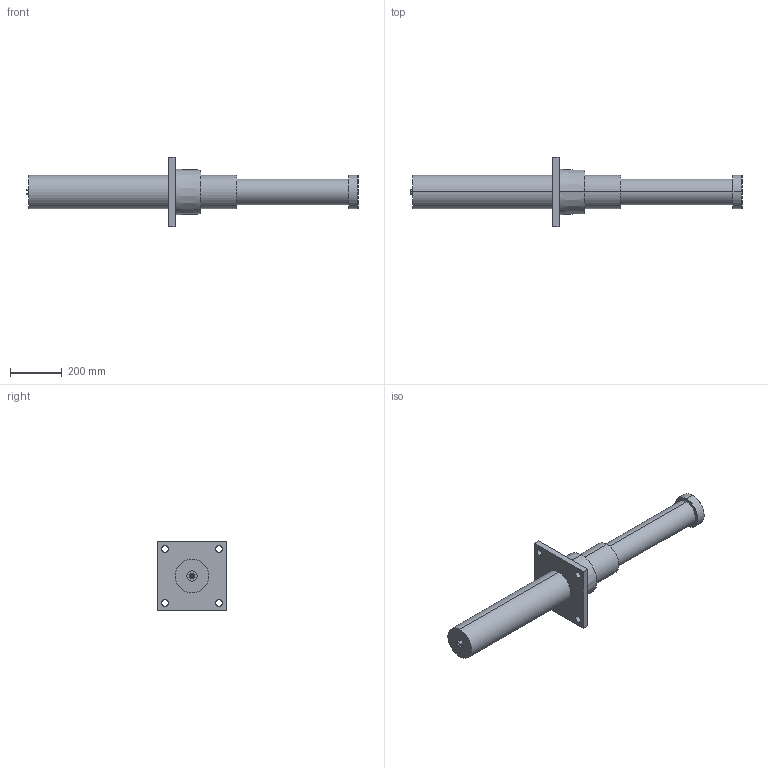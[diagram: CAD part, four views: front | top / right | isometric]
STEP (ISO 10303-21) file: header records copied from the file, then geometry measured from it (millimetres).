
FILE_DESCRIPTION (( 'STEP AP214' ), '1' );
FILE_NAME ('LDH130X400FF.STEP', '2019-01-21T05:01:39', ( 'user' ), ( 'Microsoft' ), 'SwSTEP 2.0', 'SolidWorks 2016', '' );
FILE_SCHEMA (( 'AUTOMOTIVE_DESIGN' ));
Length unit declared in the file: millimetre
Products named in the file (1): LDH130X400FF
Bounding box: 1289 x 270 x 270 mm (x, y, z)
Volume: 17075265.6 mm3; surface area: 673425.4 mm2
Topology: 1 solids, 5 shells, 63 faces, 136 edges, 90 vertices
Faces by surface type: cylinder 30, plane 29, cone 4
Entity records: 1790 total; most frequent: DIRECTION 338, CARTESIAN_POINT 290, ORIENTED_EDGE 272, AXIS2_PLACEMENT_3D 138, EDGE_CURVE 136, VERTEX_POINT 90, EDGE_LOOP 78, CIRCLE 74
